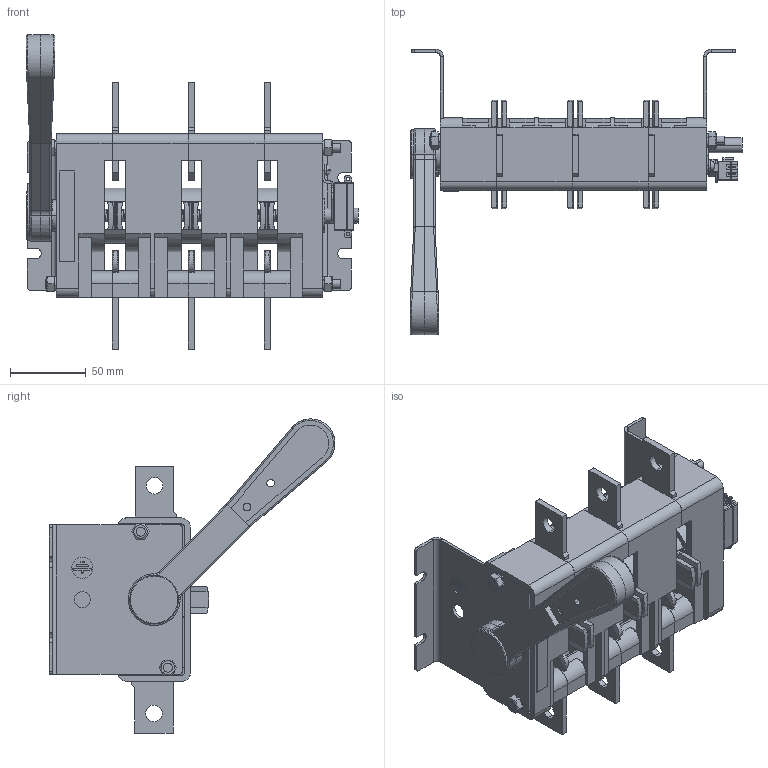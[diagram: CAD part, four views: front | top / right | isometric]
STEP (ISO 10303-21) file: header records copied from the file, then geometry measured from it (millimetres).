
FILE_DESCRIPTION (( 'STEP AP214' ), '1' );
FILE_NAME ('ﾂﾐ32-37ﾔ ﾃﾆﾈﾊ.642523.008-04 (ﾀ30221-400ﾀ).STEP', '2022-07-14T11:05:51', ( '' ), ( '' ), 'SwSTEP 2.0', 'SolidWorks 2018', '' );
FILE_SCHEMA (( 'AUTOMOTIVE_DESIGN' ));
Length unit declared in the file: millimetre
Products named in the file (33): Êîíòàêò ïîäâèæíûé ÃÆÈÊ.685179.145; 务黖闷仁.715411.019; Òàáëè÷êà äëÿ ñáîðêè ÷èñòàÿ; Áîêîâèíà ëåâàÿ ÃÆÈÊ.735224.027; Ãàéêà 2Ì6-6Í.5.016; 想囫蜩磬_闷仁.745355.027; Êîíòàêò ïîäâèæíûé_ÃÆÈÊ.745355.013; 想囫蜩磬_闷仁.745355.029; 蓐聆屙蝠桕 闷仁.751621.002; Ðóêîÿòêà ÃÆÈÊ.303658.015; ﾏ跖浯_ﾃﾆﾈﾊ.753553.011_-01 (癸ｮ爼); Áîêîâèíà ïðàâàÿ ÃÆÈÊ.735224.026; Çàãëóøêà ÃÆÈÊ.735211.002_â¥å­®«®£¨ç¥áª ï; 暑痫篑 镳噔 闷仁.735384.045; 枔膴闀歑樏錌欑蠈錪 蟠61; Øïèëüêà Ì6 ÃÆÈÊ.758292.005; 想囫蜩磬_闷仁.745355.007; ﾘ琺矜 6 65ﾃ 016; Ïðîêëàäêà ÃÆÈÊ.741233.006_-01(¤«ï ç¥àâ¥¦ ); ﾏ跖浯 ﾃﾆﾈﾊ.753553.010; ﾂ鏆鮏 ﾃﾆﾈﾊ.745485.005; 澡犟囹铕_闷仁.745484.006; Âèíò Â.Ì4-6g_-00 (Œ4å8); 澡犟囹铕 闷仁.745484.003; ﾂﾐ32-37ﾔ ﾃﾆﾈﾊ.642523.008-04 (ﾀ30221-400ﾀ); 想囫蜩磬_闷仁.301714.003蚜; ﾊ煇鳫 ﾃﾆﾈﾊ.745357.005; ﾘ琺矜 4; Êîðïóñ ëåâûé ÃÆÈÊ.735384.047; Êîðïóñ ñðåäíèé ÃÆÈÊ.735384.046; Òàáëè÷êà äëÿ ñáîðêè ÷èñòàÿ áîëüøàÿ; Îáîëî÷êà 100-400À; ﾂ琿 ﾃﾆﾈﾊ.715274.003
Assembly tree (56 placements, depth 4):
  ﾂﾐ32-37ﾔ ﾃﾆﾈﾊ.642523.008-04 (ﾀ30221-400ﾀ)
    ﾂ琿 ﾃﾆﾈﾊ.715274.003
    Êîðïóñ ëåâûé ÃÆÈÊ.735384.047
    Êîðïóñ ñðåäíèé ÃÆÈÊ.735384.046  x2
    暑痫篑 镳噔 闷仁.735384.045
    Áîêîâèíà ëåâàÿ ÃÆÈÊ.735224.027
    Áîêîâèíà ïðàâàÿ ÃÆÈÊ.735224.026
    Êîíòàêò ïîäâèæíûé ÃÆÈÊ.685179.145  x3
      Êîíòàêò ïîäâèæíûé_ÃÆÈÊ.745355.013
      想囫蜩磬_闷仁.745355.007
      澡犟囹铕_闷仁.745484.006
      务黖闷仁.715411.019
      ﾏ跖浯_ﾃﾆﾈﾊ.753553.011_-01 (癸ｮ爼)
    Øïèëüêà Ì6 ÃÆÈÊ.758292.005  x2
    Ãàéêà 2Ì6-6Í.5.016  x4
    ﾘ琺矜 6 65ﾃ 016  x4
    ﾏ跖浯 ﾃﾆﾈﾊ.753553.010  x2
    澡犟囹铕 闷仁.745484.003  x2
    蓐聆屙蝠桕 闷仁.751621.002
    Ïðîêëàäêà ÃÆÈÊ.741233.006_-01(¤«ï ç¥àâ¥¦ )  x2
    ﾂ鏆鮏 ﾃﾆﾈﾊ.745485.005  x6
    ﾊ煇鳫 ﾃﾆﾈﾊ.745357.005
    枔膴闀歑樏錌欑蠈錪 蟠61
    ﾘ琺矜 4
    Âèíò Â.Ì4-6g_-00 (Œ4å8)
    Ðóêîÿòêà ÃÆÈÊ.303658.015
      Îáîëî÷êà 100-400À
      想囫蜩磬_闷仁.301714.003蚜
        想囫蜩磬_闷仁.745355.027
        想囫蜩磬_闷仁.745355.029
    Çàãëóøêà ÃÆÈÊ.735211.002_â¥å­®«®£¨ç¥áª ï
    Òàáëè÷êà äëÿ ñáîðêè ÷èñòàÿ
    Òàáëè÷êà äëÿ ñáîðêè ÷èñòàÿ áîëüøàÿ
Bounding box: 219.49 x 188.98 x 207.73 mm (x, y, z)
Volume: 587067.8 mm3; surface area: 337153.4 mm2
Topology: 73 solids, 73 shells, 2576 faces, 6426 edges, 4070 vertices
Faces by surface type: plane 1530, cylinder 825, bspline 112, cone 70, torus 37, sphere 2
Entity records: 54201 total; most frequent: CARTESIAN_POINT 15808, DIRECTION 7584, ORIENTED_EDGE 7390, EDGE_CURVE 3695, AXIS2_PLACEMENT_3D 2595, VECTOR 2394, LINE 2394, VERTEX_POINT 2382
